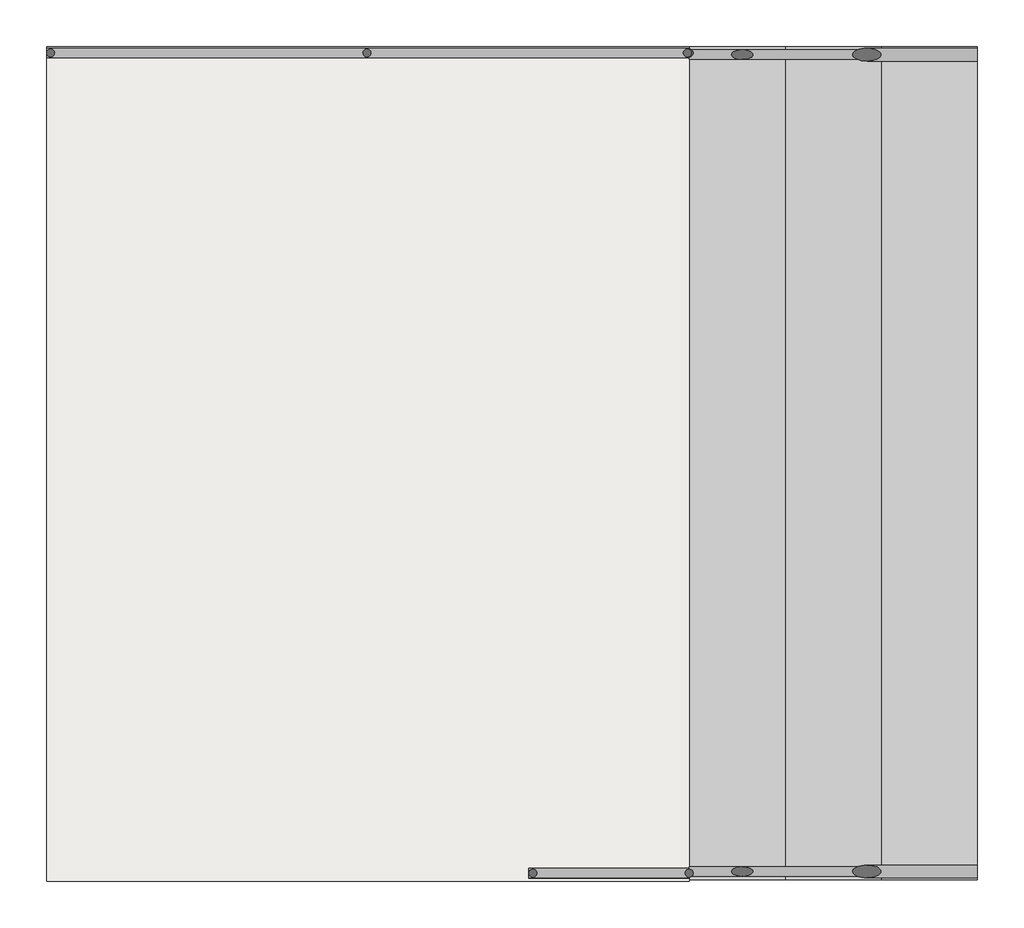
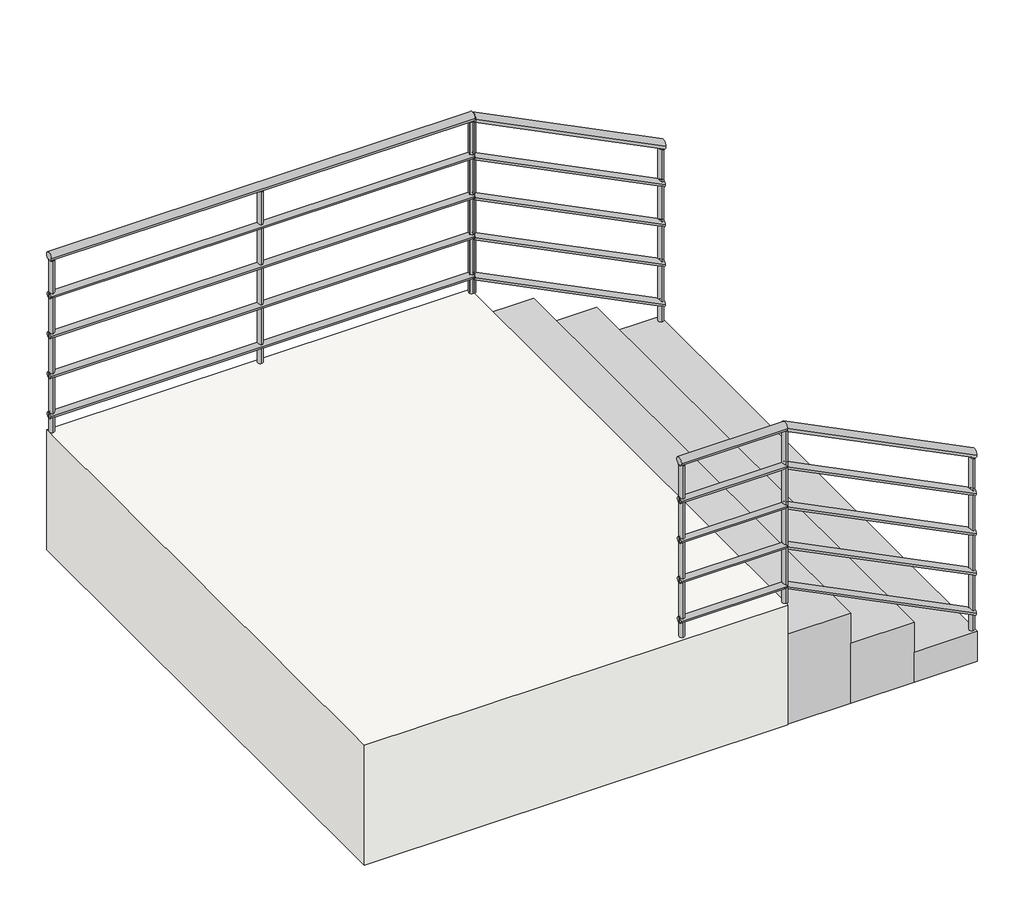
# One storey, part 1 of 2: 2 railings, 1 slab, 1 stair flight.
"""IFC4 building model written with IfcOpenShell, lengths in millimetres."""

from ifc_helpers import new_model, si_unit, point, frame, frame_2d, origin, place, context, project, spatial, circle_curve, ellipse_curve, trimmed, segment, composite_curve, outline, extrude, faceted_brep, element, save
from ifc_brep_helpers import plane_surface, cylinder_surface, advanced_brep

model = new_model("IFC4")

# Units and contexts
model_context = context("Model", 3, world=origin())
ifc_project = project(units=[si_unit("LENGTHUNIT", "METRE", prefix="MILLI")], contexts=[model_context])

# Site, building, storey
site = spatial("IfcSite", under=ifc_project)
building = spatial("IfcBuilding", under=site)
storey = spatial("IfcBuildingStorey", under=building, Name="标高 2", Elevation=2600.0)

# Railings
placement = place(None, origin())
element("IfcRailing", 1, ObjectType="900mm 圆管", at=placement, inside=storey, context=model_context, shape_type="SolidModel", body=[
    advanced_brep(
    [(15423.5682155, -4737.119554, 4080.0), (15423.5682155, -4697.119554, 4080.0), (15923.5682155, -4737.119554, 4080.0), (15923.5682155, -4697.119554, 4080.0)],
    [
        (0, 1, circle_curve(frame((15423.5682155, -4717.119554, 4080.0), z_axis=(-1.0, 0.0, 0.0), x_axis=(0.0, 1.0, 0.0)), 20.0)),
        (1, 0, circle_curve(frame((15423.5682155, -4717.119554, 4080.0), z_axis=(-1.0, 0.0, 0.0), x_axis=(0.0, 1.0, 0.0)), 20.0)),
        (2, 3, circle_curve(frame((15923.5682155, -4717.119554, 4080.0), z_axis=(1.0, 0.0, 0.0), x_axis=(0.0, 1.0, 0.0)), 20.0)),
        (3, 2, circle_curve(frame((15923.5682155, -4717.119554, 4080.0), z_axis=(1.0, 0.0, 0.0), x_axis=(0.0, 1.0, 0.0)), 20.0)),
        (0, 2),
        (3, 1),
    ],
    [
        plane_surface(frame((15423.5682155, -4717.119554, 4100.0), z_axis=(-1.0, 0.0, 0.0), x_axis=(0.0, 1.0, 0.0))),
        plane_surface(frame((15923.5682155, -4717.119554, 4100.0), z_axis=(1.0, 0.0, 0.0), x_axis=(0.0, 1.0, 0.0))),
        cylinder_surface(frame((15423.5682155, -4717.119554, 4080.0), z_axis=(-1.0, 0.0, 0.0), x_axis=(0.0, 1.0, 0.0)), 20.0),
    ],
    [
        (0, [[1, 2]]),
        (1, [[3, 4]]),
        (2, [[-1, 5, -4, 6]]),
        (2, [[-2, -6, -3, -5]]),
    ],
),
    advanced_brep(
    [(15923.5682155, -4731.7923839, 4077.6393202), (15923.5682155, -4691.7923839, 4077.6393202), (16823.5682155, -4731.7923839, 3627.6393202), (16823.5682155, -4691.7923839, 3627.6393202)],
    [
        (0, 1, ellipse_curve(frame((15923.5682155, -4711.7923839, 4077.6393202), z_axis=(-1.0, 0.0, 0.0), x_axis=(0.0, 0.0, 1.0)), 22.3606798, 20.0)),
        (1, 0, ellipse_curve(frame((15923.5682155, -4711.7923839, 4077.6393202), z_axis=(-1.0, 0.0, 0.0), x_axis=(0.0, 0.0, 1.0)), 22.3606798, 20.0)),
        (2, 3, ellipse_curve(frame((16823.5682155, -4711.7923839, 3627.6393202), z_axis=(1.0, 0.0, 0.0), x_axis=(0.0, 0.0, 1.0)), 22.3606798, 20.0)),
        (3, 2, ellipse_curve(frame((16823.5682155, -4711.7923839, 3627.6393202), z_axis=(1.0, 0.0, 0.0), x_axis=(0.0, 0.0, 1.0)), 22.3606798, 20.0)),
        (0, 2),
        (3, 1),
    ],
    [
        plane_surface(frame((15923.5682155, -4711.7923839, 4100.0), z_axis=(-1.0, 0.0, 0.0), x_axis=(0.0, 1.0, 0.0))),
        plane_surface(frame((16823.5682155, -4711.7923839, 3650.0), z_axis=(1.0, 0.0, 0.0), x_axis=(0.0, 1.0, 0.0))),
        cylinder_surface(frame((15914.6239436, -4711.7923839, 4082.1114562), z_axis=(-0.8944271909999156, 0.0, 0.4472135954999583), x_axis=(0.0, 1.0, 0.0)), 20.0),
    ],
    [
        (0, [[1, 2]]),
        (1, [[3, 4]]),
        (2, [[-1, 5, -4, 6]]),
        (2, [[-2, -6, -3, -5]]),
    ],
),
    advanced_brep(
    [(15423.5682155, -4702.119554, 3885.0), (15423.5682155, -4732.119554, 3885.0), (15923.5682155, -4702.119554, 3885.0), (15923.5682155, -4732.119554, 3885.0)],
    [
        (0, 1, circle_curve(frame((15423.5682155, -4717.119554, 3885.0), z_axis=(-1.0, 0.0, 0.0), x_axis=(0.0, -1.0, 0.0)), 15.0)),
        (1, 0, circle_curve(frame((15423.5682155, -4717.119554, 3885.0), z_axis=(-1.0, 0.0, 0.0), x_axis=(0.0, -1.0, 0.0)), 15.0)),
        (2, 3, circle_curve(frame((15923.5682155, -4717.119554, 3885.0), z_axis=(1.0, 0.0, 0.0), x_axis=(0.0, -1.0, 0.0)), 15.0)),
        (3, 2, circle_curve(frame((15923.5682155, -4717.119554, 3885.0), z_axis=(1.0, 0.0, 0.0), x_axis=(0.0, -1.0, 0.0)), 15.0)),
        (0, 2),
        (3, 1),
    ],
    [
        plane_surface(frame((15423.5682155, -4717.119554, 3900.0), z_axis=(-1.0, 0.0, 0.0), x_axis=(0.0, 1.0, 0.0))),
        plane_surface(frame((15923.5682155, -4717.119554, 3900.0), z_axis=(1.0, 0.0, 0.0), x_axis=(0.0, 1.0, 0.0))),
        cylinder_surface(frame((15423.5682155, -4717.119554, 3885.0), z_axis=(-1.0, 0.0, 0.0), x_axis=(0.0, -1.0, 0.0)), 15.0),
    ],
    [
        (0, [[1, 2]]),
        (1, [[3, 4]]),
        (2, [[-1, 5, -4, 6]]),
        (2, [[-2, -6, -3, -5]]),
    ],
),
    advanced_brep(
    [(15923.5682155, -4696.7923839, 3883.2294902), (15923.5682155, -4726.7923839, 3883.2294902), (16823.5682155, -4696.7923839, 3433.2294902), (16823.5682155, -4726.7923839, 3433.2294902)],
    [
        (0, 1, ellipse_curve(frame((15923.5682155, -4711.7923839, 3883.2294902), z_axis=(-1.0, 0.0, 0.0), x_axis=(0.0, 0.0, 1.0)), 16.7705098, 15.0)),
        (1, 0, ellipse_curve(frame((15923.5682155, -4711.7923839, 3883.2294902), z_axis=(-1.0, 0.0, 0.0), x_axis=(0.0, 0.0, 1.0)), 16.7705098, 15.0)),
        (2, 3, ellipse_curve(frame((16823.5682155, -4711.7923839, 3433.2294902), z_axis=(1.0, 0.0, 0.0), x_axis=(0.0, 0.0, 1.0)), 16.7705098, 15.0)),
        (3, 2, ellipse_curve(frame((16823.5682155, -4711.7923839, 3433.2294902), z_axis=(1.0, 0.0, 0.0), x_axis=(0.0, 0.0, 1.0)), 16.7705098, 15.0)),
        (0, 2),
        (3, 1),
    ],
    [
        plane_surface(frame((15923.5682155, -4711.7923839, 3900.0), z_axis=(-1.0, 0.0, 0.0), x_axis=(0.0, 1.0, 0.0))),
        plane_surface(frame((16823.5682155, -4711.7923839, 3450.0), z_axis=(1.0, 0.0, 0.0), x_axis=(0.0, 1.0, 0.0))),
        cylinder_surface(frame((15916.8600116, -4711.7923839, 3886.5835921), z_axis=(-0.8944271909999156, 0.0, 0.4472135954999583), x_axis=(0.0, -1.0, 0.0)), 15.0),
    ],
    [
        (0, [[1, 2]]),
        (1, [[3, 4]]),
        (2, [[-1, 5, -4, 6]]),
        (2, [[-2, -6, -3, -5]]),
    ],
),
    advanced_brep(
    [(15423.5682155, -4702.119554, 3685.0), (15423.5682155, -4732.119554, 3685.0), (15923.5682155, -4702.119554, 3685.0), (15923.5682155, -4732.119554, 3685.0)],
    [
        (0, 1, circle_curve(frame((15423.5682155, -4717.119554, 3685.0), z_axis=(-1.0, 0.0, 0.0), x_axis=(0.0, -1.0, 0.0)), 15.0)),
        (1, 0, circle_curve(frame((15423.5682155, -4717.119554, 3685.0), z_axis=(-1.0, 0.0, 0.0), x_axis=(0.0, -1.0, 0.0)), 15.0)),
        (2, 3, circle_curve(frame((15923.5682155, -4717.119554, 3685.0), z_axis=(1.0, 0.0, 0.0), x_axis=(0.0, -1.0, 0.0)), 15.0)),
        (3, 2, circle_curve(frame((15923.5682155, -4717.119554, 3685.0), z_axis=(1.0, 0.0, 0.0), x_axis=(0.0, -1.0, 0.0)), 15.0)),
        (0, 2),
        (3, 1),
    ],
    [
        plane_surface(frame((15423.5682155, -4717.119554, 3700.0), z_axis=(-1.0, 0.0, 0.0), x_axis=(0.0, 1.0, 0.0))),
        plane_surface(frame((15923.5682155, -4717.119554, 3700.0), z_axis=(1.0, 0.0, 0.0), x_axis=(0.0, 1.0, 0.0))),
        cylinder_surface(frame((15423.5682155, -4717.119554, 3685.0), z_axis=(-1.0, 0.0, 0.0), x_axis=(0.0, -1.0, 0.0)), 15.0),
    ],
    [
        (0, [[1, 2]]),
        (1, [[3, 4]]),
        (2, [[-1, 5, -4, 6]]),
        (2, [[-2, -6, -3, -5]]),
    ],
),
    advanced_brep(
    [(15923.5682155, -4696.7923839, 3683.2294902), (15923.5682155, -4726.7923839, 3683.2294902), (16823.5682155, -4696.7923839, 3233.2294902), (16823.5682155, -4726.7923839, 3233.2294902)],
    [
        (0, 1, ellipse_curve(frame((15923.5682155, -4711.7923839, 3683.2294902), z_axis=(-1.0, 0.0, 0.0), x_axis=(0.0, 0.0, 1.0)), 16.7705098, 15.0)),
        (1, 0, ellipse_curve(frame((15923.5682155, -4711.7923839, 3683.2294902), z_axis=(-1.0, 0.0, 0.0), x_axis=(0.0, 0.0, 1.0)), 16.7705098, 15.0)),
        (2, 3, ellipse_curve(frame((16823.5682155, -4711.7923839, 3233.2294902), z_axis=(1.0, 0.0, 0.0), x_axis=(0.0, 0.0, 1.0)), 16.7705098, 15.0)),
        (3, 2, ellipse_curve(frame((16823.5682155, -4711.7923839, 3233.2294902), z_axis=(1.0, 0.0, 0.0), x_axis=(0.0, 0.0, 1.0)), 16.7705098, 15.0)),
        (0, 2),
        (3, 1),
    ],
    [
        plane_surface(frame((15923.5682155, -4711.7923839, 3700.0), z_axis=(-1.0, 0.0, 0.0), x_axis=(0.0, 1.0, 0.0))),
        plane_surface(frame((16823.5682155, -4711.7923839, 3250.0), z_axis=(1.0, 0.0, 0.0), x_axis=(0.0, 1.0, 0.0))),
        cylinder_surface(frame((15916.8600116, -4711.7923839, 3686.5835921), z_axis=(-0.8944271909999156, 0.0, 0.4472135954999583), x_axis=(0.0, -1.0, 0.0)), 15.0),
    ],
    [
        (0, [[1, 2]]),
        (1, [[3, 4]]),
        (2, [[-1, 5, -4, 6]]),
        (2, [[-2, -6, -3, -5]]),
    ],
),
    advanced_brep(
    [(15423.5682155, -4702.119554, 3485.0), (15423.5682155, -4732.119554, 3485.0), (15923.5682155, -4702.119554, 3485.0), (15923.5682155, -4732.119554, 3485.0)],
    [
        (0, 1, circle_curve(frame((15423.5682155, -4717.119554, 3485.0), z_axis=(-1.0, 0.0, 0.0), x_axis=(0.0, -1.0, 0.0)), 15.0)),
        (1, 0, circle_curve(frame((15423.5682155, -4717.119554, 3485.0), z_axis=(-1.0, 0.0, 0.0), x_axis=(0.0, -1.0, 0.0)), 15.0)),
        (2, 3, circle_curve(frame((15923.5682155, -4717.119554, 3485.0), z_axis=(1.0, 0.0, 0.0), x_axis=(0.0, -1.0, 0.0)), 15.0)),
        (3, 2, circle_curve(frame((15923.5682155, -4717.119554, 3485.0), z_axis=(1.0, 0.0, 0.0), x_axis=(0.0, -1.0, 0.0)), 15.0)),
        (0, 2),
        (3, 1),
    ],
    [
        plane_surface(frame((15423.5682155, -4717.119554, 3500.0), z_axis=(-1.0, 0.0, 0.0), x_axis=(0.0, 1.0, 0.0))),
        plane_surface(frame((15923.5682155, -4717.119554, 3500.0), z_axis=(1.0, 0.0, 0.0), x_axis=(0.0, 1.0, 0.0))),
        cylinder_surface(frame((15423.5682155, -4717.119554, 3485.0), z_axis=(-1.0, 0.0, 0.0), x_axis=(0.0, -1.0, 0.0)), 15.0),
    ],
    [
        (0, [[1, 2]]),
        (1, [[3, 4]]),
        (2, [[-1, 5, -4, 6]]),
        (2, [[-2, -6, -3, -5]]),
    ],
),
    advanced_brep(
    [(15923.5682155, -4696.7923839, 3483.2294902), (15923.5682155, -4726.7923839, 3483.2294902), (16823.5682155, -4696.7923839, 3033.2294902), (16823.5682155, -4726.7923839, 3033.2294902)],
    [
        (0, 1, ellipse_curve(frame((15923.5682155, -4711.7923839, 3483.2294902), z_axis=(-1.0, 0.0, 0.0), x_axis=(0.0, 0.0, 1.0)), 16.7705098, 15.0)),
        (1, 0, ellipse_curve(frame((15923.5682155, -4711.7923839, 3483.2294902), z_axis=(-1.0, 0.0, 0.0), x_axis=(0.0, 0.0, 1.0)), 16.7705098, 15.0)),
        (2, 3, ellipse_curve(frame((16823.5682155, -4711.7923839, 3033.2294902), z_axis=(1.0, 0.0, 0.0), x_axis=(0.0, 0.0, 1.0)), 16.7705098, 15.0)),
        (3, 2, ellipse_curve(frame((16823.5682155, -4711.7923839, 3033.2294902), z_axis=(1.0, 0.0, 0.0), x_axis=(0.0, 0.0, 1.0)), 16.7705098, 15.0)),
        (0, 2),
        (3, 1),
    ],
    [
        plane_surface(frame((15923.5682155, -4711.7923839, 3500.0), z_axis=(-1.0, 0.0, 0.0), x_axis=(0.0, 1.0, 0.0))),
        plane_surface(frame((16823.5682155, -4711.7923839, 3050.0), z_axis=(1.0, 0.0, 0.0), x_axis=(0.0, 1.0, 0.0))),
        cylinder_surface(frame((15916.8600116, -4711.7923839, 3486.5835921), z_axis=(-0.8944271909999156, 0.0, 0.4472135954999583), x_axis=(0.0, -1.0, 0.0)), 15.0),
    ],
    [
        (0, [[1, 2]]),
        (1, [[3, 4]]),
        (2, [[-1, 5, -4, 6]]),
        (2, [[-2, -6, -3, -5]]),
    ],
),
    advanced_brep(
    [(15423.5682155, -4702.119554, 3285.0), (15423.5682155, -4732.119554, 3285.0), (15923.5682155, -4702.119554, 3285.0), (15923.5682155, -4732.119554, 3285.0)],
    [
        (0, 1, circle_curve(frame((15423.5682155, -4717.119554, 3285.0), z_axis=(-1.0, 0.0, 0.0), x_axis=(0.0, -1.0, 0.0)), 15.0)),
        (1, 0, circle_curve(frame((15423.5682155, -4717.119554, 3285.0), z_axis=(-1.0, 0.0, 0.0), x_axis=(0.0, -1.0, 0.0)), 15.0)),
        (2, 3, circle_curve(frame((15923.5682155, -4717.119554, 3285.0), z_axis=(1.0, 0.0, 0.0), x_axis=(0.0, -1.0, 0.0)), 15.0)),
        (3, 2, circle_curve(frame((15923.5682155, -4717.119554, 3285.0), z_axis=(1.0, 0.0, 0.0), x_axis=(0.0, -1.0, 0.0)), 15.0)),
        (0, 2),
        (3, 1),
    ],
    [
        plane_surface(frame((15423.5682155, -4717.119554, 3300.0), z_axis=(-1.0, 0.0, 0.0), x_axis=(0.0, 1.0, 0.0))),
        plane_surface(frame((15923.5682155, -4717.119554, 3300.0), z_axis=(1.0, 0.0, 0.0), x_axis=(0.0, 1.0, 0.0))),
        cylinder_surface(frame((15423.5682155, -4717.119554, 3285.0), z_axis=(-1.0, 0.0, 0.0), x_axis=(0.0, -1.0, 0.0)), 15.0),
    ],
    [
        (0, [[1, 2]]),
        (1, [[3, 4]]),
        (2, [[-1, 5, -4, 6]]),
        (2, [[-2, -6, -3, -5]]),
    ],
),
    advanced_brep(
    [(15923.5682155, -4696.7923839, 3283.2294902), (15923.5682155, -4726.7923839, 3283.2294902), (16823.5682155, -4696.7923839, 2833.2294902), (16823.5682155, -4726.7923839, 2833.2294902)],
    [
        (0, 1, ellipse_curve(frame((15923.5682155, -4711.7923839, 3283.2294902), z_axis=(-1.0, 0.0, 0.0), x_axis=(0.0, 0.0, 1.0)), 16.7705098, 15.0)),
        (1, 0, ellipse_curve(frame((15923.5682155, -4711.7923839, 3283.2294902), z_axis=(-1.0, 0.0, 0.0), x_axis=(0.0, 0.0, 1.0)), 16.7705098, 15.0)),
        (2, 3, ellipse_curve(frame((16823.5682155, -4711.7923839, 2833.2294902), z_axis=(1.0, 0.0, 0.0), x_axis=(0.0, 0.0, 1.0)), 16.7705098, 15.0)),
        (3, 2, ellipse_curve(frame((16823.5682155, -4711.7923839, 2833.2294902), z_axis=(1.0, 0.0, 0.0), x_axis=(0.0, 0.0, 1.0)), 16.7705098, 15.0)),
        (0, 2),
        (3, 1),
    ],
    [
        plane_surface(frame((15923.5682155, -4711.7923839, 3300.0), z_axis=(-1.0, 0.0, 0.0), x_axis=(0.0, 1.0, 0.0))),
        plane_surface(frame((16823.5682155, -4711.7923839, 2850.0), z_axis=(1.0, 0.0, 0.0), x_axis=(0.0, 1.0, 0.0))),
        cylinder_surface(frame((15916.8600116, -4711.7923839, 3286.5835921), z_axis=(-0.8944271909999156, 0.0, 0.4472135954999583), x_axis=(0.0, -1.0, 0.0)), 15.0),
    ],
    [
        (0, [[1, 2]]),
        (1, [[3, 4]]),
        (2, [[-1, 5, -4, 6]]),
        (2, [[-2, -6, -3, -5]]),
    ],
),
    extrude(outline(composite_curve([segment(trimmed(circle_curve(frame_2d((15923.5682155, -4717.119554)), 12.5), [point((15923.5682155, -4704.619554))], [point((15923.5682155, -4729.619554))], False, "CARTESIAN"), True, "CONTINUOUS"), segment(trimmed(circle_curve(frame_2d((15923.5682155, -4717.119554)), 12.5), [point((15923.5682155, -4729.619554))], [point((15923.5682155, -4704.619554))], False, "CARTESIAN"), True, "CONTINUOUS")], self_intersect=False)), frame((0.0, 0.0, 3200.0), z_axis=(0.0, 0.0, 1.0), x_axis=(1.0, 0.0, 0.0)), (0.0, 0.0, 1.0), 860.0),
    advanced_brep(
    [(16811.0682155, -4724.2923839, 3611.5286405), (16811.0682155, -4724.2923839, 2750.0), (16811.0682155, -4699.2923839, 2750.0), (16811.0682155, -4699.2923839, 3611.5286405)],
    [
        (0, 1),
        (1, 2, circle_curve(frame((16811.0682155, -4711.7923839, 2750.0), z_axis=(0.0, 0.0, 1.0), x_axis=(0.0, 1.0, 0.0)), 12.5)),
        (2, 3),
        (3, 0, ellipse_curve(frame((16811.0682155, -4711.7923839, 3611.5286405), z_axis=(-0.44721359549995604, 0.0, -0.894427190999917), x_axis=(-0.8944271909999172, 0.0, 0.4472135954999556)), 13.9754249, 12.5)),
        (0, 3, ellipse_curve(frame((16811.0682155, -4711.7923839, 3611.5286405), z_axis=(-0.44721359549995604, 0.0, -0.894427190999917), x_axis=(-0.8944271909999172, 0.0, 0.4472135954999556)), 13.9754249, 12.5)),
        (2, 1, circle_curve(frame((16811.0682155, -4711.7923839, 2750.0), z_axis=(0.0, 0.0, 1.0), x_axis=(0.0, 1.0, 0.0)), 12.5)),
    ],
    [
        cylinder_surface(frame((16811.0682155, -4711.7923839, 2650.0), z_axis=(0.0, 0.0, 1.0), x_axis=(0.0, 1.0, 0.0)), 12.5),
        plane_surface(frame((16836.0682155, -4686.7923839, 3599.0286405), z_axis=(0.44721359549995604, 0.0, 0.894427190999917), x_axis=(0.0, -1.0, 0.0))),
        plane_surface(frame((16786.0682155, -4686.7923839, 2750.0), z_axis=(0.0, 0.0, -1.0), x_axis=(0.0, -1.0, 0.0))),
    ],
    [
        (0, [[1, 2, 3, 4]]),
        (0, [[-1, 5, -3, 6]]),
        (1, [[-4, -5]]),
        (2, [[-2, -6]]),
    ],
),
    extrude(outline(composite_curve([segment(trimmed(circle_curve(frame_2d((15436.0682155, -4717.119554)), 12.5), [point((15436.0682155, -4704.619554))], [point((15436.0682155, -4729.619554))], False, "CARTESIAN"), True, "CONTINUOUS"), segment(trimmed(circle_curve(frame_2d((15436.0682155, -4717.119554)), 12.5), [point((15436.0682155, -4729.619554))], [point((15436.0682155, -4704.619554))], False, "CARTESIAN"), True, "CONTINUOUS")], self_intersect=False)), frame((0.0, 0.0, 3200.0), z_axis=(0.0, 0.0, 1.0), x_axis=(1.0, 0.0, 0.0)), (0.0, 0.0, 1.0), 860.0),
])
element("IfcRailing", 2, ObjectType="900mm 圆管", at=placement, inside=storey, context=model_context, shape_type="SolidModel", body=[
    advanced_brep(
    [(13918.2324742, -2177.2652139, 4080.0), (13918.2324742, -2137.2652139, 4080.0), (15923.5682155, -2177.2652139, 4080.0), (15923.5682155, -2137.2652139, 4080.0)],
    [
        (0, 1, circle_curve(frame((13918.2324742, -2157.2652139, 4080.0), z_axis=(-1.0, 0.0, 0.0), x_axis=(0.0, 1.0, 0.0)), 20.0)),
        (1, 0, circle_curve(frame((13918.2324742, -2157.2652139, 4080.0), z_axis=(-1.0, 0.0, 0.0), x_axis=(0.0, 1.0, 0.0)), 20.0)),
        (2, 3, circle_curve(frame((15923.5682155, -2157.2652139, 4080.0), z_axis=(1.0, 0.0, 0.0), x_axis=(0.0, 1.0, 0.0)), 20.0)),
        (3, 2, circle_curve(frame((15923.5682155, -2157.2652139, 4080.0), z_axis=(1.0, 0.0, 0.0), x_axis=(0.0, 1.0, 0.0)), 20.0)),
        (0, 2),
        (3, 1),
    ],
    [
        plane_surface(frame((13918.2324742, -2157.2652139, 4100.0), z_axis=(-1.0, 0.0, 0.0), x_axis=(0.0, 1.0, 0.0))),
        plane_surface(frame((15923.5682155, -2157.2652139, 4100.0), z_axis=(1.0, 0.0, 0.0), x_axis=(0.0, 1.0, 0.0))),
        cylinder_surface(frame((13918.2324742, -2157.2652139, 4080.0), z_axis=(-1.0, 0.0, 0.0), x_axis=(0.0, 1.0, 0.0)), 20.0),
    ],
    [
        (0, [[1, 2]]),
        (1, [[3, 4]]),
        (2, [[-1, 5, -4, 6]]),
        (2, [[-2, -6, -3, -5]]),
    ],
),
    advanced_brep(
    [(15923.5682155, -2182.5923839, 4077.6393202), (15923.5682155, -2142.5923839, 4077.6393202), (16823.5682155, -2182.5923839, 3627.6393202), (16823.5682155, -2142.5923839, 3627.6393202)],
    [
        (0, 1, ellipse_curve(frame((15923.5682155, -2162.5923839, 4077.6393202), z_axis=(-1.0, 0.0, 0.0), x_axis=(0.0, 0.0, 1.0)), 22.3606798, 20.0)),
        (1, 0, ellipse_curve(frame((15923.5682155, -2162.5923839, 4077.6393202), z_axis=(-1.0, 0.0, 0.0), x_axis=(0.0, 0.0, 1.0)), 22.3606798, 20.0)),
        (2, 3, ellipse_curve(frame((16823.5682155, -2162.5923839, 3627.6393202), z_axis=(1.0, 0.0, 0.0), x_axis=(0.0, 0.0, 1.0)), 22.3606798, 20.0)),
        (3, 2, ellipse_curve(frame((16823.5682155, -2162.5923839, 3627.6393202), z_axis=(1.0, 0.0, 0.0), x_axis=(0.0, 0.0, 1.0)), 22.3606798, 20.0)),
        (0, 2),
        (3, 1),
    ],
    [
        plane_surface(frame((15923.5682155, -2162.5923839, 4100.0), z_axis=(-1.0, 0.0, 0.0), x_axis=(0.0, 1.0, 0.0))),
        plane_surface(frame((16823.5682155, -2162.5923839, 3650.0), z_axis=(1.0, 0.0, 0.0), x_axis=(0.0, 1.0, 0.0))),
        cylinder_surface(frame((15914.6239436, -2162.5923839, 4082.1114562), z_axis=(-0.8944271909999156, 0.0, 0.44721359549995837), x_axis=(0.0, 1.0, 0.0)), 20.0),
    ],
    [
        (0, [[1, 2]]),
        (1, [[3, 4]]),
        (2, [[-1, 5, -4, 6]]),
        (2, [[-2, -6, -3, -5]]),
    ],
),
    advanced_brep(
    [(13918.2324742, -2172.2652139, 3885.0), (13918.2324742, -2142.2652139, 3885.0), (15923.5682155, -2172.2652139, 3885.0), (15923.5682155, -2142.2652139, 3885.0)],
    [
        (0, 1, circle_curve(frame((13918.2324742, -2157.2652139, 3885.0), z_axis=(-1.0, 0.0, 0.0), x_axis=(0.0, 1.0, 0.0)), 15.0)),
        (1, 0, circle_curve(frame((13918.2324742, -2157.2652139, 3885.0), z_axis=(-1.0, 0.0, 0.0), x_axis=(0.0, 1.0, 0.0)), 15.0)),
        (2, 3, circle_curve(frame((15923.5682155, -2157.2652139, 3885.0), z_axis=(1.0, 0.0, 0.0), x_axis=(0.0, 1.0, 0.0)), 15.0)),
        (3, 2, circle_curve(frame((15923.5682155, -2157.2652139, 3885.0), z_axis=(1.0, 0.0, 0.0), x_axis=(0.0, 1.0, 0.0)), 15.0)),
        (1, 3),
        (2, 0),
    ],
    [
        plane_surface(frame((13918.2324742, -2157.2652139, 3900.0), z_axis=(-1.0, 0.0, 0.0), x_axis=(0.0, 1.0, 0.0))),
        plane_surface(frame((15923.5682155, -2157.2652139, 3900.0), z_axis=(1.0, 0.0, 0.0), x_axis=(0.0, 1.0, 0.0))),
        cylinder_surface(frame((13918.2324742, -2157.2652139, 3885.0), z_axis=(-1.0, 0.0, 0.0), x_axis=(0.0, 1.0, 0.0)), 15.0),
    ],
    [
        (0, [[1, 2]]),
        (1, [[3, 4]]),
        (2, [[-2, 5, -3, 6]]),
        (2, [[-1, -6, -4, -5]]),
    ],
),
    advanced_brep(
    [(15923.5682155, -2177.5923839, 3883.2294902), (15923.5682155, -2147.5923839, 3883.2294902), (16823.5682155, -2177.5923839, 3433.2294902), (16823.5682155, -2147.5923839, 3433.2294902)],
    [
        (0, 1, ellipse_curve(frame((15923.5682155, -2162.5923839, 3883.2294902), z_axis=(-1.0, 0.0, 0.0), x_axis=(0.0, 0.0, 1.0)), 16.7705098, 15.0)),
        (1, 0, ellipse_curve(frame((15923.5682155, -2162.5923839, 3883.2294902), z_axis=(-1.0, 0.0, 0.0), x_axis=(0.0, 0.0, 1.0)), 16.7705098, 15.0)),
        (2, 3, ellipse_curve(frame((16823.5682155, -2162.5923839, 3433.2294902), z_axis=(1.0, 0.0, 0.0), x_axis=(0.0, 0.0, 1.0)), 16.7705098, 15.0)),
        (3, 2, ellipse_curve(frame((16823.5682155, -2162.5923839, 3433.2294902), z_axis=(1.0, 0.0, 0.0), x_axis=(0.0, 0.0, 1.0)), 16.7705098, 15.0)),
        (1, 3),
        (2, 0),
    ],
    [
        plane_surface(frame((15923.5682155, -2162.5923839, 3900.0), z_axis=(-1.0, 0.0, 0.0), x_axis=(0.0, 1.0, 0.0))),
        plane_surface(frame((16823.5682155, -2162.5923839, 3450.0), z_axis=(1.0, 0.0, 0.0), x_axis=(0.0, 1.0, 0.0))),
        cylinder_surface(frame((15916.8600116, -2162.5923839, 3886.5835921), z_axis=(-0.8944271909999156, 0.0, 0.44721359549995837), x_axis=(0.0, 1.0, 0.0)), 15.0),
    ],
    [
        (0, [[1, 2]]),
        (1, [[3, 4]]),
        (2, [[-2, 5, -3, 6]]),
        (2, [[-1, -6, -4, -5]]),
    ],
),
    advanced_brep(
    [(13918.2324742, -2172.2652139, 3685.0), (13918.2324742, -2142.2652139, 3685.0), (15923.5682155, -2172.2652139, 3685.0), (15923.5682155, -2142.2652139, 3685.0)],
    [
        (0, 1, circle_curve(frame((13918.2324742, -2157.2652139, 3685.0), z_axis=(-1.0, 0.0, 0.0), x_axis=(0.0, 1.0, 0.0)), 15.0)),
        (1, 0, circle_curve(frame((13918.2324742, -2157.2652139, 3685.0), z_axis=(-1.0, 0.0, 0.0), x_axis=(0.0, 1.0, 0.0)), 15.0)),
        (2, 3, circle_curve(frame((15923.5682155, -2157.2652139, 3685.0), z_axis=(1.0, 0.0, 0.0), x_axis=(0.0, 1.0, 0.0)), 15.0)),
        (3, 2, circle_curve(frame((15923.5682155, -2157.2652139, 3685.0), z_axis=(1.0, 0.0, 0.0), x_axis=(0.0, 1.0, 0.0)), 15.0)),
        (1, 3),
        (2, 0),
    ],
    [
        plane_surface(frame((13918.2324742, -2157.2652139, 3700.0), z_axis=(-1.0, 0.0, 0.0), x_axis=(0.0, 1.0, 0.0))),
        plane_surface(frame((15923.5682155, -2157.2652139, 3700.0), z_axis=(1.0, 0.0, 0.0), x_axis=(0.0, 1.0, 0.0))),
        cylinder_surface(frame((13918.2324742, -2157.2652139, 3685.0), z_axis=(-1.0, 0.0, 0.0), x_axis=(0.0, 1.0, 0.0)), 15.0),
    ],
    [
        (0, [[1, 2]]),
        (1, [[3, 4]]),
        (2, [[-2, 5, -3, 6]]),
        (2, [[-1, -6, -4, -5]]),
    ],
),
    advanced_brep(
    [(15923.5682155, -2177.5923839, 3683.2294902), (15923.5682155, -2147.5923839, 3683.2294902), (16823.5682155, -2177.5923839, 3233.2294902), (16823.5682155, -2147.5923839, 3233.2294902)],
    [
        (0, 1, ellipse_curve(frame((15923.5682155, -2162.5923839, 3683.2294902), z_axis=(-1.0, 0.0, 0.0), x_axis=(0.0, 0.0, 1.0)), 16.7705098, 15.0)),
        (1, 0, ellipse_curve(frame((15923.5682155, -2162.5923839, 3683.2294902), z_axis=(-1.0, 0.0, 0.0), x_axis=(0.0, 0.0, 1.0)), 16.7705098, 15.0)),
        (2, 3, ellipse_curve(frame((16823.5682155, -2162.5923839, 3233.2294902), z_axis=(1.0, 0.0, 0.0), x_axis=(0.0, 0.0, 1.0)), 16.7705098, 15.0)),
        (3, 2, ellipse_curve(frame((16823.5682155, -2162.5923839, 3233.2294902), z_axis=(1.0, 0.0, 0.0), x_axis=(0.0, 0.0, 1.0)), 16.7705098, 15.0)),
        (1, 3),
        (2, 0),
    ],
    [
        plane_surface(frame((15923.5682155, -2162.5923839, 3700.0), z_axis=(-1.0, 0.0, 0.0), x_axis=(0.0, 1.0, 0.0))),
        plane_surface(frame((16823.5682155, -2162.5923839, 3250.0), z_axis=(1.0, 0.0, 0.0), x_axis=(0.0, 1.0, 0.0))),
        cylinder_surface(frame((15916.8600116, -2162.5923839, 3686.5835921), z_axis=(-0.8944271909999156, 0.0, 0.44721359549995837), x_axis=(0.0, 1.0, 0.0)), 15.0),
    ],
    [
        (0, [[1, 2]]),
        (1, [[3, 4]]),
        (2, [[-2, 5, -3, 6]]),
        (2, [[-1, -6, -4, -5]]),
    ],
),
    advanced_brep(
    [(13918.2324742, -2172.2652139, 3485.0), (13918.2324742, -2142.2652139, 3485.0), (15923.5682155, -2172.2652139, 3485.0), (15923.5682155, -2142.2652139, 3485.0)],
    [
        (0, 1, circle_curve(frame((13918.2324742, -2157.2652139, 3485.0), z_axis=(-1.0, 0.0, 0.0), x_axis=(0.0, 1.0, 0.0)), 15.0)),
        (1, 0, circle_curve(frame((13918.2324742, -2157.2652139, 3485.0), z_axis=(-1.0, 0.0, 0.0), x_axis=(0.0, 1.0, 0.0)), 15.0)),
        (2, 3, circle_curve(frame((15923.5682155, -2157.2652139, 3485.0), z_axis=(1.0, 0.0, 0.0), x_axis=(0.0, 1.0, 0.0)), 15.0)),
        (3, 2, circle_curve(frame((15923.5682155, -2157.2652139, 3485.0), z_axis=(1.0, 0.0, 0.0), x_axis=(0.0, 1.0, 0.0)), 15.0)),
        (1, 3),
        (2, 0),
    ],
    [
        plane_surface(frame((13918.2324742, -2157.2652139, 3500.0), z_axis=(-1.0, 0.0, 0.0), x_axis=(0.0, 1.0, 0.0))),
        plane_surface(frame((15923.5682155, -2157.2652139, 3500.0), z_axis=(1.0, 0.0, 0.0), x_axis=(0.0, 1.0, 0.0))),
        cylinder_surface(frame((13918.2324742, -2157.2652139, 3485.0), z_axis=(-1.0, 0.0, 0.0), x_axis=(0.0, 1.0, 0.0)), 15.0),
    ],
    [
        (0, [[1, 2]]),
        (1, [[3, 4]]),
        (2, [[-2, 5, -3, 6]]),
        (2, [[-1, -6, -4, -5]]),
    ],
),
    advanced_brep(
    [(15923.5682155, -2177.5923839, 3483.2294902), (15923.5682155, -2147.5923839, 3483.2294902), (16823.5682155, -2177.5923839, 3033.2294902), (16823.5682155, -2147.5923839, 3033.2294902)],
    [
        (0, 1, ellipse_curve(frame((15923.5682155, -2162.5923839, 3483.2294902), z_axis=(-1.0, 0.0, 0.0), x_axis=(0.0, 0.0, 1.0)), 16.7705098, 15.0)),
        (1, 0, ellipse_curve(frame((15923.5682155, -2162.5923839, 3483.2294902), z_axis=(-1.0, 0.0, 0.0), x_axis=(0.0, 0.0, 1.0)), 16.7705098, 15.0)),
        (2, 3, ellipse_curve(frame((16823.5682155, -2162.5923839, 3033.2294902), z_axis=(1.0, 0.0, 0.0), x_axis=(0.0, 0.0, 1.0)), 16.7705098, 15.0)),
        (3, 2, ellipse_curve(frame((16823.5682155, -2162.5923839, 3033.2294902), z_axis=(1.0, 0.0, 0.0), x_axis=(0.0, 0.0, 1.0)), 16.7705098, 15.0)),
        (1, 3),
        (2, 0),
    ],
    [
        plane_surface(frame((15923.5682155, -2162.5923839, 3500.0), z_axis=(-1.0, 0.0, 0.0), x_axis=(0.0, 1.0, 0.0))),
        plane_surface(frame((16823.5682155, -2162.5923839, 3050.0), z_axis=(1.0, 0.0, 0.0), x_axis=(0.0, 1.0, 0.0))),
        cylinder_surface(frame((15916.8600116, -2162.5923839, 3486.5835921), z_axis=(-0.8944271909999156, 0.0, 0.44721359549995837), x_axis=(0.0, 1.0, 0.0)), 15.0),
    ],
    [
        (0, [[1, 2]]),
        (1, [[3, 4]]),
        (2, [[-2, 5, -3, 6]]),
        (2, [[-1, -6, -4, -5]]),
    ],
),
    advanced_brep(
    [(13918.2324742, -2172.2652139, 3285.0), (13918.2324742, -2142.2652139, 3285.0), (15923.5682155, -2172.2652139, 3285.0), (15923.5682155, -2142.2652139, 3285.0)],
    [
        (0, 1, circle_curve(frame((13918.2324742, -2157.2652139, 3285.0), z_axis=(-1.0, 0.0, 0.0), x_axis=(0.0, 1.0, 0.0)), 15.0)),
        (1, 0, circle_curve(frame((13918.2324742, -2157.2652139, 3285.0), z_axis=(-1.0, 0.0, 0.0), x_axis=(0.0, 1.0, 0.0)), 15.0)),
        (2, 3, circle_curve(frame((15923.5682155, -2157.2652139, 3285.0), z_axis=(1.0, 0.0, 0.0), x_axis=(0.0, 1.0, 0.0)), 15.0)),
        (3, 2, circle_curve(frame((15923.5682155, -2157.2652139, 3285.0), z_axis=(1.0, 0.0, 0.0), x_axis=(0.0, 1.0, 0.0)), 15.0)),
        (1, 3),
        (2, 0),
    ],
    [
        plane_surface(frame((13918.2324742, -2157.2652139, 3300.0), z_axis=(-1.0, 0.0, 0.0), x_axis=(0.0, 1.0, 0.0))),
        plane_surface(frame((15923.5682155, -2157.2652139, 3300.0), z_axis=(1.0, 0.0, 0.0), x_axis=(0.0, 1.0, 0.0))),
        cylinder_surface(frame((13918.2324742, -2157.2652139, 3285.0), z_axis=(-1.0, 0.0, 0.0), x_axis=(0.0, 1.0, 0.0)), 15.0),
    ],
    [
        (0, [[1, 2]]),
        (1, [[3, 4]]),
        (2, [[-2, 5, -3, 6]]),
        (2, [[-1, -6, -4, -5]]),
    ],
),
    advanced_brep(
    [(15923.5682155, -2177.5923839, 3283.2294902), (15923.5682155, -2147.5923839, 3283.2294902), (16823.5682155, -2177.5923839, 2833.2294902), (16823.5682155, -2147.5923839, 2833.2294902)],
    [
        (0, 1, ellipse_curve(frame((15923.5682155, -2162.5923839, 3283.2294902), z_axis=(-1.0, 0.0, 0.0), x_axis=(0.0, 0.0, 1.0)), 16.7705098, 15.0)),
        (1, 0, ellipse_curve(frame((15923.5682155, -2162.5923839, 3283.2294902), z_axis=(-1.0, 0.0, 0.0), x_axis=(0.0, 0.0, 1.0)), 16.7705098, 15.0)),
        (2, 3, ellipse_curve(frame((16823.5682155, -2162.5923839, 2833.2294902), z_axis=(1.0, 0.0, 0.0), x_axis=(0.0, 0.0, 1.0)), 16.7705098, 15.0)),
        (3, 2, ellipse_curve(frame((16823.5682155, -2162.5923839, 2833.2294902), z_axis=(1.0, 0.0, 0.0), x_axis=(0.0, 0.0, 1.0)), 16.7705098, 15.0)),
        (1, 3),
        (2, 0),
    ],
    [
        plane_surface(frame((15923.5682155, -2162.5923839, 3300.0), z_axis=(-1.0, 0.0, 0.0), x_axis=(0.0, 1.0, 0.0))),
        plane_surface(frame((16823.5682155, -2162.5923839, 2850.0), z_axis=(1.0, 0.0, 0.0), x_axis=(0.0, 1.0, 0.0))),
        cylinder_surface(frame((15916.8600116, -2162.5923839, 3286.5835921), z_axis=(-0.8944271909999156, 0.0, 0.44721359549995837), x_axis=(0.0, 1.0, 0.0)), 15.0),
    ],
    [
        (0, [[1, 2]]),
        (1, [[3, 4]]),
        (2, [[-2, 5, -3, 6]]),
        (2, [[-1, -6, -4, -5]]),
    ],
),
    extrude(outline(composite_curve([segment(trimmed(circle_curve(frame_2d((15918.2324742, -2157.2652139)), 12.5), [point((15918.2324742, -2169.7652139))], [point((15918.2324742, -2144.7652139))], False, "CARTESIAN"), True, "CONTINUOUS"), segment(trimmed(circle_curve(frame_2d((15918.2324742, -2157.2652139)), 12.5), [point((15918.2324742, -2144.7652139))], [point((15918.2324742, -2169.7652139))], False, "CARTESIAN"), True, "CONTINUOUS")], self_intersect=False)), frame((0.0, 0.0, 3200.0), z_axis=(0.0, 0.0, 1.0), x_axis=(1.0, 0.0, 0.0)), (0.0, 0.0, 1.0), 860.0),
    extrude(outline(composite_curve([segment(trimmed(circle_curve(frame_2d((14918.2324742, -2157.2652139)), 12.5), [point((14918.2324742, -2169.7652139))], [point((14918.2324742, -2144.7652139))], False, "CARTESIAN"), True, "CONTINUOUS"), segment(trimmed(circle_curve(frame_2d((14918.2324742, -2157.2652139)), 12.5), [point((14918.2324742, -2144.7652139))], [point((14918.2324742, -2169.7652139))], False, "CARTESIAN"), True, "CONTINUOUS")], self_intersect=False)), frame((0.0, 0.0, 3200.0), z_axis=(0.0, 0.0, 1.0), x_axis=(1.0, 0.0, 0.0)), (0.0, 0.0, 1.0), 860.0),
    extrude(outline(composite_curve([segment(trimmed(circle_curve(frame_2d((15923.5682155, -2157.2652139)), 12.5), [point((15923.5682155, -2169.7652139))], [point((15923.5682155, -2144.7652139))], False, "CARTESIAN"), True, "CONTINUOUS"), segment(trimmed(circle_curve(frame_2d((15923.5682155, -2157.2652139)), 12.5), [point((15923.5682155, -2144.7652139))], [point((15923.5682155, -2169.7652139))], False, "CARTESIAN"), True, "CONTINUOUS")], self_intersect=False)), frame((0.0, 0.0, 3200.0), z_axis=(0.0, 0.0, 1.0), x_axis=(1.0, 0.0, 0.0)), (0.0, 0.0, 1.0), 860.0),
    advanced_brep(
    [(16811.0682155, -2150.0923839, 3611.5286405), (16811.0682155, -2175.0923839, 3611.5286405), (16811.0682155, -2175.0923839, 2750.0), (16811.0682155, -2150.0923839, 2750.0)],
    [
        (0, 1, ellipse_curve(frame((16811.0682155, -2162.5923839, 3611.5286405), z_axis=(-0.44721359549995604, 0.0, -0.894427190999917), x_axis=(-0.8944271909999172, 0.0, 0.4472135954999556)), 13.9754249, 12.5)),
        (1, 2),
        (2, 3, circle_curve(frame((16811.0682155, -2162.5923839, 2750.0), z_axis=(0.0, 0.0, 1.0), x_axis=(0.0, -1.0, 0.0)), 12.5)),
        (3, 0),
        (3, 2, circle_curve(frame((16811.0682155, -2162.5923839, 2750.0), z_axis=(0.0, 0.0, 1.0), x_axis=(0.0, -1.0, 0.0)), 12.5)),
        (1, 0, ellipse_curve(frame((16811.0682155, -2162.5923839, 3611.5286405), z_axis=(-0.44721359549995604, 0.0, -0.894427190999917), x_axis=(-0.8944271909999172, 0.0, 0.4472135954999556)), 13.9754249, 12.5)),
    ],
    [
        cylinder_surface(frame((16811.0682155, -2162.5923839, 2650.0), z_axis=(0.0, 0.0, 1.0), x_axis=(0.0, -1.0, 0.0)), 12.5),
        plane_surface(frame((16836.0682155, -2187.5923839, 3599.0286405), z_axis=(0.44721359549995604, 0.0, 0.894427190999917), x_axis=(0.0, 1.0, 0.0))),
        plane_surface(frame((16786.0682155, -2187.5923839, 2750.0), z_axis=(0.0, 0.0, -1.0), x_axis=(0.0, 1.0, 0.0))),
    ],
    [
        (0, [[1, 2, 3, 4]]),
        (0, [[5, -2, 6, -4]]),
        (1, [[-6, -1]]),
        (2, [[-5, -3]]),
    ],
),
    extrude(outline(composite_curve([segment(trimmed(circle_curve(frame_2d((13930.7324742, -2157.2652139)), 12.5), [point((13930.7324742, -2169.7652139))], [point((13930.7324742, -2144.7652139))], False, "CARTESIAN"), True, "CONTINUOUS"), segment(trimmed(circle_curve(frame_2d((13930.7324742, -2157.2652139)), 12.5), [point((13930.7324742, -2144.7652139))], [point((13930.7324742, -2169.7652139))], False, "CARTESIAN"), True, "CONTINUOUS")], self_intersect=False)), frame((0.0, 0.0, 3200.0), z_axis=(0.0, 0.0, 1.0), x_axis=(1.0, 0.0, 0.0)), (0.0, 0.0, 1.0), 860.0),
])

# Slab
element("IfcSlab", 3, ObjectType="300mm 厚度", at=placement, inside=storey, context=model_context, shape_type="Brep", body=[
    faceted_brep([(15923.5682155, -4737.1923839, 3200.0), (15923.5682155, -2137.1923839, 3200.0), (15411.1070358, -2137.1923839, 3200.0), (13918.2324742, -2137.1923839, 3200.0), (13918.2324742, -4742.519554, 3200.0), (15923.5682155, -4742.519554, 3200.0), (13918.2324742, -4742.519554, 2600.0), (15923.5682155, -4742.519554, 2600.0), (15923.5682155, -2137.1923839, 3050.0), (15923.5682155, -2137.1923839, 2600.0), (15411.1070358, -2137.1923839, 2600.0), (13918.2324742, -2137.1923839, 2600.0), (15923.5682155, -4737.1923839, 2600.0)], [[[0, 1, 2, 3, 4, 5]], [[5, 4, 6, 7]], [[1, 8, 9, 10, 11, 3, 2]], [[4, 3, 11, 6]], [[9, 12, 7, 6, 11, 10]], [[1, 0, 12, 9, 8]], [[0, 5, 7, 12]]]),
])

# Stair flight
element("IfcStairFlight", 4, ObjectType="150mm 结构深度", at=placement, inside=storey, context=model_context, shape_type="Brep", body=[
    faceted_brep([(16523.5682155, -4737.1923839, 2750.0), (16823.5682155, -4737.1923839, 2750.0), (16823.5682155, -2137.1923839, 2750.0), (16523.5682155, -2137.1923839, 2750.0), (16523.5682155, -4737.1923839, 2600.0), (16823.5682155, -4737.1923839, 2600.0), (16823.5682155, -2137.1923839, 2600.0), (16523.5682155, -2137.1923839, 2600.0), (16223.5682155, -4737.1923839, 2900.0), (16523.5682155, -4737.1923839, 2900.0), (16523.5682155, -2137.1923839, 2900.0), (16223.5682155, -2137.1923839, 2900.0), (16223.5682155, -4737.1923839, 2600.0), (16223.5682155, -2137.1923839, 2600.0), (15923.5682155, -4737.1923839, 3050.0), (16223.5682155, -4737.1923839, 3050.0), (16223.5682155, -2137.1923839, 3050.0), (15923.5682155, -2137.1923839, 3050.0), (15923.5682155, -4737.1923839, 2600.0), (15923.5682155, -2137.1923839, 2600.0)], [[[0, 1, 2, 3]], [[1, 0, 4, 5]], [[2, 1, 5, 6]], [[3, 2, 6, 7]], [[8, 9, 10, 11]], [[4, 0, 9, 8, 12]], [[0, 3, 10, 9]], [[3, 7, 13, 11, 10]], [[14, 15, 16, 17]], [[12, 8, 15, 14, 18]], [[8, 11, 16, 15]], [[11, 13, 19, 17, 16]], [[14, 17, 19, 18]], [[5, 4, 12, 18, 19, 13, 7, 6]]]),
])

save(model, "model.ifc")
